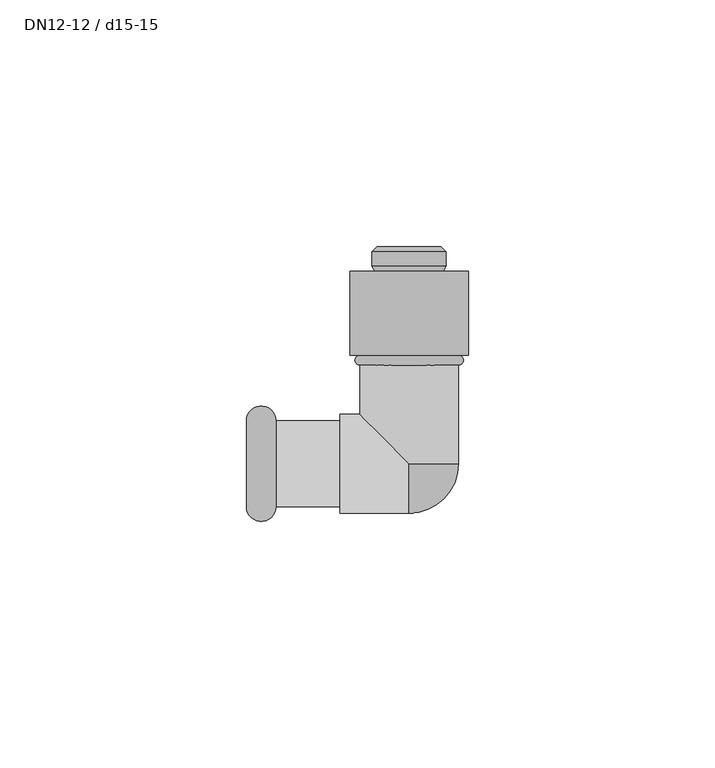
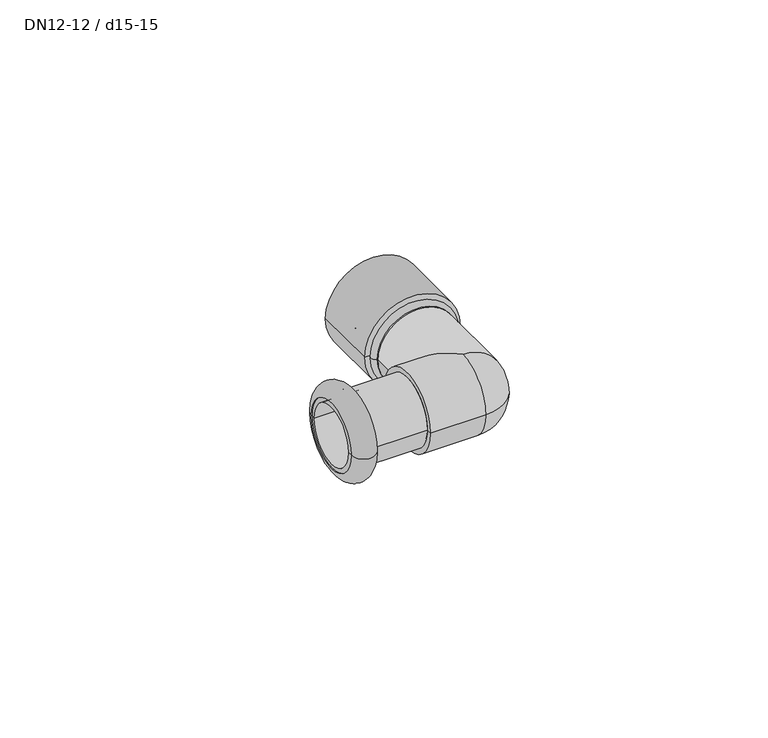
"""IFC4 building model written with IfcOpenShell, lengths in millimetres: pipe fitting geometry, NLRS_50_PIF_UN_Mapress overgangsknie 90° met MasterFix_geb : DN12-12 / d15-15."""

from ifc_helpers import new_model, si_unit, point, frame, origin, place, context, project, spatial, polyline, circle_curve, ellipse_curve, trimmed, source, transform, mapped, element, save
from ifc_brep_helpers import plane_surface, cylinder_surface, revolved_surface, advanced_brep


def dn12_12_d15_15_e9d87322(model_context):
    return source(origin(), model_context, "Body", "AdvancedBrep", [
        advanced_brep(
        [(-33.0, 8.7, 0.0), (-33.0, -8.7, 0.0), (-26.9987073, -8.7, 0.0), (-26.9987073, 8.7, 0.0)],
        [
            (0, 1, circle_curve(frame((-33.0, 0.0, 0.0), z_axis=(-1.0, 0.0, 0.0), x_axis=(0.0, -1.0000000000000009, 0.0)), 8.7)),
            (1, 2),
            (2, 3, circle_curve(frame((-26.9987073, 0.0, 0.0), z_axis=(1.0, 0.0, 0.0), x_axis=(0.0, -1.0000000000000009, 0.0)), 8.7)),
            (3, 0),
            (1, 0, circle_curve(frame((-33.0, 0.0, 0.0), z_axis=(-1.0, 0.0, 0.0), x_axis=(0.0, -1.0000000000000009, 0.0)), 8.7)),
            (3, 2, circle_curve(frame((-26.9987073, 0.0, 0.0), z_axis=(1.0, 0.0, 0.0), x_axis=(0.0, -1.0000000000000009, 0.0)), 8.7)),
            (2, 1, circle_curve(frame((-29.9993536, -8.7, 0.0), z_axis=(0.0, 0.0, -1.0000000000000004), x_axis=(-1.0000000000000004, 0.0, 0.0)), 3.0006464)),
            (0, 3, circle_curve(frame((-29.9993536, 8.7, 0.0), z_axis=(0.0, 0.0, -1.0000000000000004), x_axis=(-1.0000000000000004, 0.0, 0.0)), 3.0006464)),
        ],
        [
            revolved_surface(polyline([(-26.99870730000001, -8.700000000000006, 0.0), (-33.000000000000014, -8.700000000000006, 0.0)]), (-14.0, 0.0, 0.0), (1.0000000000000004, 0.0, 0.0)),
            revolved_surface(trimmed(ellipse_curve(frame((-29.9993536, -8.7, 0.0), z_axis=(0.0, 0.0, 1.0000000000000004), x_axis=(-1.0000000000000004, 0.0, 0.0)), 3.0006464, 3.0006464), [point((-33.0, -8.7, 0.0))], [point((-26.9987073, -8.7, 0.0))], True, "CARTESIAN"), (-14.0, 0.0, 0.0), (1.0000000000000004, 0.0, 0.0)),
        ],
        [
            (0, [[1, 2, 3, 4]]),
            (0, [[5, -4, 6, -2]]),
            (1, [[-3, 7, -1, 8]]),
            (1, [[-6, -8, -5, -7]]),
        ],
    ),
        advanced_brep(
        [(-33.0, 7.5, 0.0), (-33.0, -7.5, 0.0), (-13.0, -7.5, 0.0), (-13.0, 7.5, 0.0), (-33.0, 8.7, 0.0), (-33.0, -8.7, 0.0), (-14.0, 8.7, 0.0), (-14.0, -8.7, 0.0)],
        [
            (0, 1, circle_curve(frame((-33.0, 0.0, 0.0), z_axis=(-1.0, 0.0, 0.0), x_axis=(0.0, -1.0000000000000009, 0.0)), 7.5)),
            (1, 2),
            (2, 3, circle_curve(frame((-13.0, 0.0, 0.0), z_axis=(1.0, 0.0, 0.0), x_axis=(0.0, -1.0000000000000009, 0.0)), 7.5)),
            (3, 0),
            (1, 0, circle_curve(frame((-33.0, 0.0, 0.0), z_axis=(-1.0, 0.0, 0.0), x_axis=(0.0, -1.0000000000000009, 0.0)), 7.5)),
            (3, 2, circle_curve(frame((-13.0, 0.0, 0.0), z_axis=(1.0, 0.0, 0.0), x_axis=(0.0, -1.0000000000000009, 0.0)), 7.5)),
            (4, 5, circle_curve(frame((-33.0, 0.0, 0.0), z_axis=(-1.0, 0.0, 0.0), x_axis=(0.0, -1.0000000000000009, 0.0)), 8.7)),
            (5, 1),
            (0, 4),
            (5, 4, circle_curve(frame((-33.0, 0.0, 0.0), z_axis=(-1.0, 0.0, 0.0), x_axis=(0.0, -1.0000000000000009, 0.0)), 8.7)),
            (6, 7, circle_curve(frame((-14.0, 0.0, 0.0), z_axis=(-1.0, 0.0, 0.0), x_axis=(0.0, -1.0000000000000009, 0.0)), 8.7)),
            (7, 5),
            (4, 6),
            (7, 6, circle_curve(frame((-14.0, 0.0, 0.0), z_axis=(-1.0, 0.0, 0.0), x_axis=(0.0, -1.0000000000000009, 0.0)), 8.7)),
            (2, 7),
            (6, 3),
        ],
        [
            revolved_surface(polyline([(-13.0, -7.500000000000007, 0.0), (-33.000000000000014, -7.500000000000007, 0.0)]), (-14.0, 0.0, 0.0), (1.0000000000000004, 0.0, 0.0)),
            plane_surface(frame((-33.0, 0.0, 0.0), z_axis=(-1.0, 0.0, 0.0), x_axis=(0.0, -1.0, 0.0))),
            cylinder_surface(frame((-14.0, 0.0, 0.0), z_axis=(1.0000000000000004, 0.0, 0.0), x_axis=(0.0, -1.0000000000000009, 0.0)), 8.7),
            revolved_surface(polyline([(-14.0, -8.7, 0.0), (-13.0, -7.5, 0.0)]), (-14.0, 0.0, 0.0), (1.0000000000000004, 0.0, 0.0)),
        ],
        [
            (0, [[1, 2, 3, 4]]),
            (0, [[5, -4, 6, -2]]),
            (1, [[7, 8, -1, 9]]),
            (1, [[10, -9, -5, -8]]),
            (2, [[11, 12, -7, 13]]),
            (2, [[14, -13, -10, -12]]),
            (3, [[-3, 15, -11, 16]]),
            (3, [[-6, -16, -14, -15]]),
        ],
    ),
        advanced_brep(
        [(0.0, 44.0, 0.0), (6.5, 44.0, 0.0), (-6.5, 44.0, 0.0), (-10.0, 20.0, 0.0), (10.0, 20.0, 0.0), (0.0, 20.0, 0.0), (-10.0, 22.0, 0.0), (10.0, 22.0, 0.0), (-7.5, 22.0, 0.0), (7.5, 22.0, 0.0), (-7.5, 28.881966, 0.0), (7.5, 28.881966, 0.0), (-7.5, 31.118034, 0.0), (7.5, 31.118034, 0.0), (-7.5, 33.9414451, 0.0), (7.5, 33.9414451, 0.0), (-7.5, 39.9892433, 0.0), (7.5, 39.9892433, 0.0), (-7.5, 43.0, 0.0), (7.5, 43.0, 0.0)],
        [
            (0, 1),
            (1, 2, circle_curve(frame((0.0, 44.0, 0.0), z_axis=(0.0, 1.0, 0.0), x_axis=(1.0000000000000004, 0.0, 0.0)), 6.5)),
            (2, 0),
            (2, 1, circle_curve(frame((0.0, 44.0, 0.0), z_axis=(0.0, 1.0, 0.0), x_axis=(1.0000000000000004, 0.0, 0.0)), 6.5)),
            (3, 4, circle_curve(frame((0.0, 20.0, 0.0), z_axis=(0.0, -1.0, 0.0), x_axis=(1.0000000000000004, 0.0, 0.0)), 10.0)),
            (4, 5),
            (5, 3),
            (4, 3, circle_curve(frame((0.0, 20.0, 0.0), z_axis=(0.0, -1.0, 0.0), x_axis=(1.0000000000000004, 0.0, 0.0)), 10.0)),
            (6, 7, circle_curve(frame((0.0, 22.0, 0.0), z_axis=(0.0, -1.0, 0.0), x_axis=(1.0000000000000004, 0.0, 0.0)), 10.0)),
            (7, 4, circle_curve(frame((10.0, 21.0, 0.0), z_axis=(0.0, 0.0, -1.0), x_axis=(0.0, -1.0000000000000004, 0.0)), 1.0)),
            (3, 6, circle_curve(frame((-10.0, 21.0, 0.0), z_axis=(0.0, 0.0, -1.0), x_axis=(0.0, -1.0000000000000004, 0.0)), 1.0)),
            (7, 6, circle_curve(frame((0.0, 22.0, 0.0), z_axis=(0.0, -1.0, 0.0), x_axis=(1.0000000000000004, 0.0, 0.0)), 10.0)),
            (8, 9, circle_curve(frame((0.0, 22.0, 0.0), z_axis=(0.0, -1.0, 0.0), x_axis=(1.0000000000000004, 0.0, 0.0)), 7.5)),
            (9, 7),
            (6, 8),
            (9, 8, circle_curve(frame((0.0, 22.0, 0.0), z_axis=(0.0, -1.0, 0.0), x_axis=(1.0000000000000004, 0.0, 0.0)), 7.5)),
            (10, 11, circle_curve(frame((0.0, 28.881966, 0.0), z_axis=(0.0, -1.0, 0.0), x_axis=(1.0000000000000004, 0.0, 0.0)), 7.5)),
            (11, 9),
            (8, 10),
            (11, 10, circle_curve(frame((0.0, 28.881966, 0.0), z_axis=(0.0, -1.0, 0.0), x_axis=(1.0000000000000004, 0.0, 0.0)), 7.5)),
            (12, 13, circle_curve(frame((0.0, 31.118034, 0.0), z_axis=(0.0, -1.0, 0.0), x_axis=(1.0000000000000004, 0.0, 0.0)), 7.5)),
            (13, 11, circle_curve(frame((6.9889209, 30.0, 0.0), z_axis=(0.0, 0.0, -1.0), x_axis=(0.0, -1.0000000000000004, 0.0)), 1.2293095)),
            (10, 12, circle_curve(frame((-6.9889209, 30.0, 0.0), z_axis=(0.0, 0.0, -1.0), x_axis=(0.0, -1.0000000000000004, 0.0)), 1.2293095)),
            (13, 12, circle_curve(frame((0.0, 31.118034, 0.0), z_axis=(0.0, -1.0, 0.0), x_axis=(1.0000000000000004, 0.0, 0.0)), 7.5)),
            (14, 15, circle_curve(frame((0.0, 33.9414451, 0.0), z_axis=(0.0, -1.0, 0.0), x_axis=(1.0000000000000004, 0.0, 0.0)), 7.5)),
            (15, 13),
            (12, 14),
            (15, 14, circle_curve(frame((0.0, 33.9414451, 0.0), z_axis=(0.0, -1.0, 0.0), x_axis=(1.0000000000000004, 0.0, 0.0)), 7.5)),
            (16, 17, circle_curve(frame((0.0, 39.9892433, 0.0), z_axis=(0.0, -1.0, 0.0), x_axis=(1.0000000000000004, 0.0, 0.0)), 7.5)),
            (17, 15, circle_curve(frame((11.7319636, 36.9653442, 0.0), z_axis=(0.0, 0.0, 1.0), x_axis=(0.0, -1.0000000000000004, 0.0)), 5.2012962)),
            (14, 16, circle_curve(frame((-11.7319636, 36.9653442, 0.0), z_axis=(0.0, 0.0, 1.0), x_axis=(0.0, -1.0000000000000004, 0.0)), 5.2012962)),
            (17, 16, circle_curve(frame((0.0, 39.9892433, 0.0), z_axis=(0.0, -1.0, 0.0), x_axis=(1.0000000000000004, 0.0, 0.0)), 7.5)),
            (18, 19, circle_curve(frame((0.0, 43.0, 0.0), z_axis=(0.0, -1.0, 0.0), x_axis=(1.0000000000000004, 0.0, 0.0)), 7.5)),
            (19, 17),
            (16, 18),
            (19, 18, circle_curve(frame((0.0, 43.0, 0.0), z_axis=(0.0, -1.0, 0.0), x_axis=(1.0000000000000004, 0.0, 0.0)), 7.5)),
            (1, 19),
            (18, 2),
        ],
        [
            plane_surface(frame((0.0, 44.0, 0.0), z_axis=(0.0, 1.0, 0.0), x_axis=(1.0, 0.0, 0.0))),
            plane_surface(frame((0.0, 20.0, 0.0), z_axis=(0.0, -1.0, 0.0), x_axis=(1.0, 0.0, 0.0))),
            revolved_surface(trimmed(ellipse_curve(frame((10.0, 21.0, 0.0), z_axis=(0.0, 0.0, 1.0), x_axis=(0.0, -1.0000000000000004, 0.0)), 1.0, 1.0), [point((10.0, 20.0, 0.0))], [point((10.0, 22.0, 0.0))], True, "CARTESIAN"), (0.0, 52.045876, 0.0), (0.0, 1.0000000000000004, 0.0)),
            plane_surface(frame((0.0, 22.0, 0.0), z_axis=(0.0, 1.0, 0.0), x_axis=(1.0, 0.0, 0.0))),
            cylinder_surface(frame((0.0, 52.045876, 0.0), z_axis=(0.0, 1.0000000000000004, 0.0), x_axis=(1.0000000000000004, 0.0, 0.0)), 7.5),
            revolved_surface(trimmed(ellipse_curve(frame((6.9889209, 30.0, 0.0), z_axis=(0.0, 0.0, 1.0), x_axis=(0.0, -1.0000000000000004, 0.0)), 1.2293095, 1.2293095), [point((7.5, 28.881966, 0.0))], [point((7.5, 31.118034, 0.0))], True, "CARTESIAN"), (0.0, 52.045876, 0.0), (0.0, 1.0000000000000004, 0.0)),
            revolved_surface(trimmed(ellipse_curve(frame((11.7319636, 36.9653442, 0.0), z_axis=(0.0, 0.0, -1.0), x_axis=(0.0, -1.0000000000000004, 0.0)), 5.2012962, 5.2012962), [point((7.5, 33.9414451, 0.0))], [point((7.5, 39.9892433, 0.0))], True, "CARTESIAN"), (0.0, 52.045876, 0.0), (0.0, 1.0000000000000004, 0.0)),
            revolved_surface(polyline([(7.5, 43.0, 0.0), (6.5, 44.0, 0.0)]), (0.0, 52.045876, 0.0), (0.0, 1.0000000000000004, 0.0)),
        ],
        [
            (0, [[1, 2, 3]]),
            (0, [[-3, 4, -1]]),
            (1, [[5, 6, 7]]),
            (1, [[8, -7, -6]]),
            (2, [[9, 10, -5, 11]]),
            (2, [[12, -11, -8, -10]]),
            (3, [[13, 14, -9, 15]]),
            (3, [[16, -15, -12, -14]]),
            (4, [[17, 18, -13, 19]]),
            (4, [[20, -19, -16, -18]]),
            (5, [[21, 22, -17, 23]]),
            (5, [[24, -23, -20, -22]]),
            (4, [[25, 26, -21, 27]]),
            (4, [[28, -27, -24, -26]]),
            (6, [[29, 30, -25, 31]]),
            (6, [[32, -31, -28, -30]]),
            (4, [[33, 34, -29, 35]]),
            (4, [[36, -35, -32, -34]]),
            (7, [[-2, 37, -33, 38]]),
            (7, [[-4, -38, -36, -37]]),
        ],
    ),
        advanced_brep(
        [(-10.0, 22.0, 0.0), (10.0, 22.0, 0.0), (10.0, 39.0, 0.0), (-10.0, 39.0, 0.0), (-12.0, 22.0, 0.0), (12.0, 22.0, 0.0), (-12.0, 39.0, 0.0), (12.0, 39.0, 0.0)],
        [
            (0, 1, circle_curve(frame((0.0, 22.0, 0.0), z_axis=(0.0, -1.0, 0.0), x_axis=(1.0000000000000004, 0.0, 0.0)), 10.0)),
            (1, 2),
            (2, 3, circle_curve(frame((0.0, 39.0, 0.0), z_axis=(0.0, 1.0, 0.0), x_axis=(1.0000000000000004, 0.0, 0.0)), 10.0)),
            (3, 0),
            (1, 0, circle_curve(frame((0.0, 22.0, 0.0), z_axis=(0.0, -1.0, 0.0), x_axis=(1.0000000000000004, 0.0, 0.0)), 10.0)),
            (3, 2, circle_curve(frame((0.0, 39.0, 0.0), z_axis=(0.0, 1.0, 0.0), x_axis=(1.0000000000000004, 0.0, 0.0)), 10.0)),
            (4, 5, circle_curve(frame((0.0, 22.0, 0.0), z_axis=(0.0, -1.0, 0.0), x_axis=(1.0000000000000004, 0.0, 0.0)), 12.0)),
            (5, 1),
            (0, 4),
            (5, 4, circle_curve(frame((0.0, 22.0, 0.0), z_axis=(0.0, -1.0, 0.0), x_axis=(1.0000000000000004, 0.0, 0.0)), 12.0)),
            (6, 7, circle_curve(frame((0.0, 39.0, 0.0), z_axis=(0.0, -1.0, 0.0), x_axis=(1.0000000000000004, 0.0, 0.0)), 12.0)),
            (7, 5),
            (4, 6),
            (7, 6, circle_curve(frame((0.0, 39.0, 0.0), z_axis=(0.0, -1.0, 0.0), x_axis=(1.0000000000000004, 0.0, 0.0)), 12.0)),
            (2, 7),
            (6, 3),
        ],
        [
            revolved_surface(polyline([(10.000000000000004, 38.99999999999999, 0.0), (10.000000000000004, 21.99999999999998, 0.0)]), (0.0, 49.0, 0.0), (0.0, 1.0000000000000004, 0.0)),
            plane_surface(frame((0.0, 22.0, 0.0), z_axis=(0.0, -1.0, 0.0), x_axis=(1.0, 0.0, 0.0))),
            cylinder_surface(frame((0.0, 49.0, 0.0), z_axis=(0.0, 1.0000000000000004, 0.0), x_axis=(1.0000000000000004, 0.0, 0.0)), 12.0),
            plane_surface(frame((0.0, 39.0, 0.0), z_axis=(0.0, 1.0, 0.0), x_axis=(1.0, 0.0, 0.0))),
        ],
        [
            (0, [[1, 2, 3, 4]]),
            (0, [[5, -4, 6, -2]]),
            (1, [[7, 8, -1, 9]]),
            (1, [[10, -9, -5, -8]]),
            (2, [[11, 12, -7, 13]]),
            (2, [[14, -13, -10, -12]]),
            (3, [[-3, 15, -11, 16]]),
            (3, [[-6, -16, -14, -15]]),
        ],
    ),
        advanced_brep(
        [(10.0, 20.0, 0.0), (-10.0, 20.0, 0.0), (0.0, 20.0, 0.0), (10.0, 0.0, 0.0), (6.9229942, 0.0, -7.2161036), (0.0, 0.0, -10.0), (-10.0, 10.0, 0.0), (0.0, 0.0, 10.0), (6.9229942, 0.0, 7.2161036), (-14.0, 10.0, 0.0), (-14.0, -10.0, 0.0), (-14.0, 0.0, 0.0), (0.0, -10.0, 0.0), (0.0, -6.9229942, -7.2161036), (0.0, -6.9229942, 7.2161036)],
        [
            (0, 1, circle_curve(frame((0.0, 20.0, 0.0), z_axis=(0.0, 1.0, 0.0), x_axis=(-1.0, 0.0, 0.0)), 10.0)),
            (1, 2),
            (2, 0),
            (1, 0, circle_curve(frame((0.0, 20.0, 0.0), z_axis=(0.0, 1.0, 0.0), x_axis=(-1.0, 0.0, 0.0)), 10.0)),
            (0, 3),
            (3, 4, circle_curve(frame((0.0, 0.0, 0.0), z_axis=(0.0, 1.0, 0.0), x_axis=(-1.0, 0.0, 0.0)), 10.0)),
            (4, 5, circle_curve(frame((0.0, 0.0, 0.0), z_axis=(0.0, 1.0, 0.0), x_axis=(-1.0, 0.0, 0.0)), 10.0)),
            (5, 6, ellipse_curve(frame((0.0, 0.0, 0.0), z_axis=(0.7071067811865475, 0.7071067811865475, 0.0), x_axis=(0.7071067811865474, -0.7071067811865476, 0.0)), 14.1421356, 10.0)),
            (6, 1),
            (6, 7, ellipse_curve(frame((0.0, 0.0, 0.0), z_axis=(0.7071067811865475, 0.7071067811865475, 0.0), x_axis=(0.7071067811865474, -0.7071067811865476, 0.0)), 14.1421356, 10.0)),
            (7, 8, circle_curve(frame((0.0, 0.0, 0.0), z_axis=(0.0, 1.0, 0.0), x_axis=(-1.0, 0.0, 0.0)), 10.0)),
            (8, 3, circle_curve(frame((0.0, 0.0, 0.0), z_axis=(0.0, 1.0, 0.0), x_axis=(-1.0, 0.0, 0.0)), 10.0)),
            (9, 10, circle_curve(frame((-14.0, 0.0, 0.0), z_axis=(-1.0, 0.0, 0.0), x_axis=(0.0, -1.0, 0.0)), 10.0)),
            (10, 11),
            (11, 9),
            (10, 9, circle_curve(frame((-14.0, 0.0, 0.0), z_axis=(-1.0, 0.0, 0.0), x_axis=(0.0, -1.0, 0.0)), 10.0)),
            (3, 12, circle_curve(frame((0.0, 0.0, 0.0), z_axis=(0.0, 0.0, -1.0), x_axis=(0.0, -1.0, 0.0)), 10.0)),
            (12, 13, circle_curve(frame((0.0, 0.0, 0.0), z_axis=(1.0, 0.0, 0.0), x_axis=(0.0, -1.0, 0.0)), 10.0)),
            (13, 5, circle_curve(frame((0.0, 0.0, 0.0), z_axis=(1.0, 0.0, 0.0), x_axis=(0.0, -1.0, 0.0)), 10.0)),
            (7, 14, circle_curve(frame((0.0, 0.0, 0.0), z_axis=(1.0, 0.0, 7.835693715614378e-12), x_axis=(0.0, -1.0, 0.0)), 10.0)),
            (14, 12, circle_curve(frame((0.0, 0.0, 0.0), z_axis=(1.0, 0.0, 0.0), x_axis=(0.0, -1.0, 0.0)), 10.0)),
            (9, 6),
            (12, 10),
        ],
        [
            plane_surface(frame((0.0, 20.0, 0.0), z_axis=(0.0, 1.0, 0.0), x_axis=(-1.0, 0.0, 0.0))),
            cylinder_surface(frame((0.0, 2003.3186671, 0.0), z_axis=(0.0, -1.0, 0.0), x_axis=(-1.0, 0.0, 0.0)), 10.0),
            plane_surface(frame((-14.0, 0.0, 0.0), z_axis=(-1.0, 0.0, 0.0), x_axis=(0.0, -1.0, 0.0))),
            revolved_surface(trimmed(ellipse_curve(frame((0.0, 0.0, 0.0), z_axis=(0.0, 0.0, 1.0), x_axis=(0.0, -1.0, 0.0)), 10.0, 10.0), [point((0.0, -10.0, 0.0))], [point((10.0, 0.0, 0.0))], True, "CARTESIAN"), (0.0, 2000.0, 0.0), (0.0, 1.0, 0.0)),
            cylinder_surface(frame((2000.0, 0.0, 0.0), z_axis=(1.0, 0.0, 0.0), x_axis=(0.0, -1.0, 0.0)), 10.0),
        ],
        [
            (0, [[1, 2, 3]]),
            (0, [[-2, 4, -3]]),
            (1, [[-1, 5, 6, 7, 8, 9]]),
            (1, [[-4, -9, 10, 11, 12, -5]]),
            (2, [[13, 14, 15]]),
            (2, [[-14, 16, -15]]),
            (3, [[17, 18, 19, -7, -6]]),
            (3, [[-17, -12, -11, 20, 21]]),
            (4, [[-13, 22, -8, -19, -18, 23]]),
            (4, [[-16, -23, -21, -20, -10, -22]]),
        ],
    ),
    ])


if __name__ == "__main__":
    model = new_model("IFC4")
    model_context = context("Model", 3, world=origin())
    ifc_project = project(units=[si_unit("LENGTHUNIT", "METRE", prefix="MILLI")], contexts=[model_context])
    site = spatial("IfcSite", under=ifc_project)
    building = spatial("IfcBuilding", under=site)
    placement = place(None, origin())
    dn12_12_d15_15_shape = dn12_12_d15_15_e9d87322(model_context)
    element("IfcPipeFitting", 1, ObjectType="NLRS_50_PIF_UN_Mapress overgangsknie 90° met MasterFix_geb : DN12-12 / d15-15", at=placement, inside=building, context=model_context, shape_type="MappedRepresentation", body=[
        mapped(dn12_12_d15_15_shape, transform((0.0, 0.0, 0.0), x_axis=(1.0, 0.0, 0.0), y_axis=(0.0, 1.0, 0.0), z_axis=(0.0, 0.0, 1.0))),
    ])
    save(model, "model.ifc")
